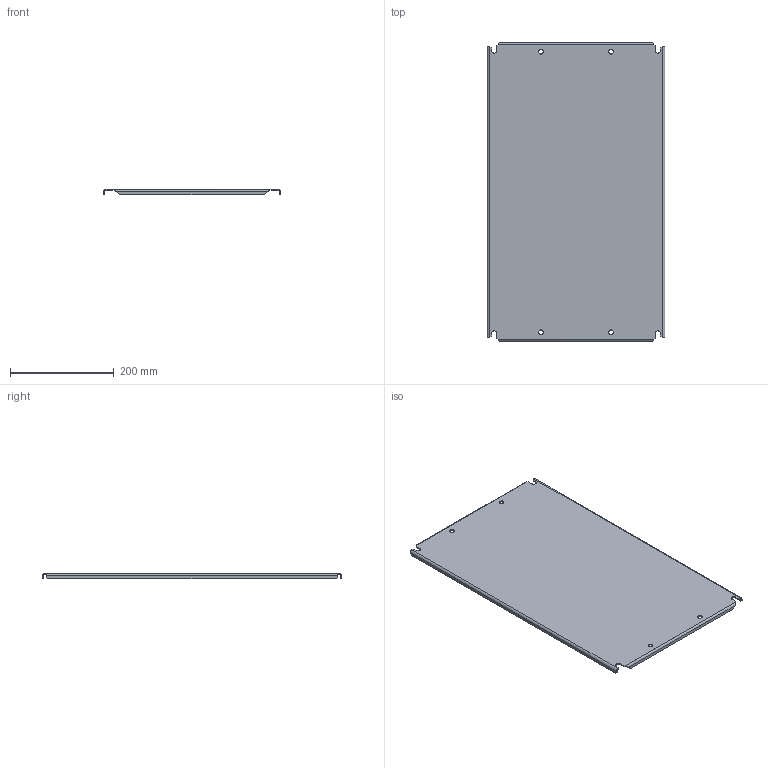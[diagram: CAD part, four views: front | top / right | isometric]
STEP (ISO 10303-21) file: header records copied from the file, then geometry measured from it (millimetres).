
FILE_DESCRIPTION (( 'STEP AP214' ), '1' );
FILE_NAME ('MPC 60.40 Ïàíåëü ìîíòàæíàÿ.STEP', '2023-04-24T13:32:16', ( '' ), ( '' ), 'SwSTEP 2.0', 'SolidWorks 2019', '' );
FILE_SCHEMA (( 'AUTOMOTIVE_DESIGN' ));
Length unit declared in the file: millimetre
Products named in the file (1): MPC 60.40 Ïàíåëü ìîíòàæíàÿ
Bounding box: 342 x 574.98 x 10 mm (x, y, z)
Volume: 412855.5 mm3; surface area: 416944.7 mm2
Topology: 1 solids, 1 shells, 94 faces, 248 edges, 156 vertices
Faces by surface type: plane 50, cylinder 40, bspline 4
Full cylindrical faces by diameter (mm): 9 x4
Entity records: 2994 total; most frequent: CARTESIAN_POINT 651, ORIENTED_EDGE 480, DIRECTION 478, EDGE_CURVE 240, AXIS2_PLACEMENT_3D 163, VECTOR 152, VERTEX_POINT 152, LINE 152
